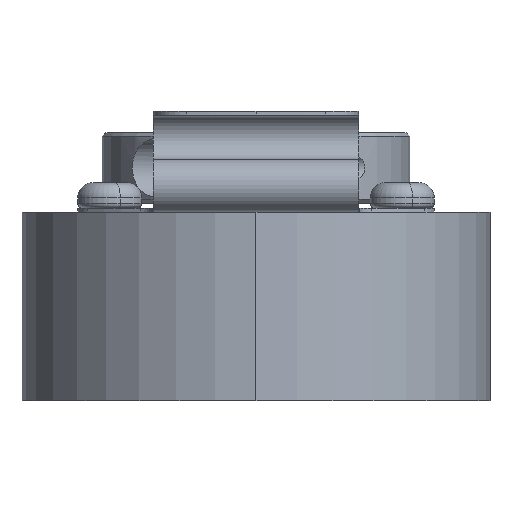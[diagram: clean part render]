
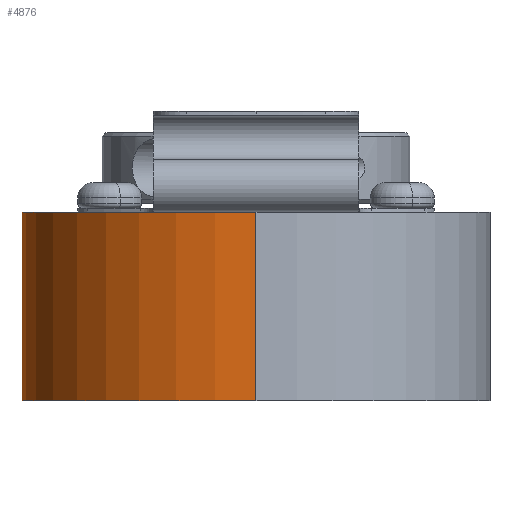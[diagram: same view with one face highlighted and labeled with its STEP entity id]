
A CAD part, left-side view. The second image highlights one B-rep face of the part: STEP entity #4876.
In plain terms, the highlighted cylindrical face has radius 18.25 mm (diameter 36.5 mm), a partial arc.
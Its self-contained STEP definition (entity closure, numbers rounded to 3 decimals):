
#1464 = CARTESIAN_POINT ( 'NONE',  ( -18.25, 0., 984. ) ) ;
#1907 = DIRECTION ( 'NONE',  ( 0., 0., 1. ) ) ;
#2314 = DIRECTION ( 'NONE',  ( -1., 0., 0. ) ) ;
#2493 = CARTESIAN_POINT ( 'NONE',  ( 18.25, 0., 984. ) ) ;
#3652 = CARTESIAN_POINT ( 'NONE',  ( -18.25, 0., 0. ) ) ;
#3789 = EDGE_CURVE ( 'NONE', #15605, #17959, #14091, .T. ) ;
#4470 = AXIS2_PLACEMENT_3D ( 'NONE', #12424, #22240, #5337 ) ;
#4492 = CARTESIAN_POINT ( 'NONE',  ( 0., 0., 984. ) ) ;
#4876 = ADVANCED_FACE ( 'NONE', ( #17770 ), #6258, .T. ) ;
#5105 = VERTEX_POINT ( 'NONE', #8306 ) ;
#5337 = DIRECTION ( 'NONE',  ( 1., 0., 0. ) ) ;
#5933 = VECTOR ( 'NONE', #16123, 1000. ) ;
#6258 = CYLINDRICAL_SURFACE ( 'NONE', #17074, 18.25 ) ;
#7907 = CIRCLE ( 'NONE', #4470, 18.25 ) ;
#8306 = CARTESIAN_POINT ( 'NONE',  ( 18.25, 0., -14.7 ) ) ;
#9204 = CARTESIAN_POINT ( 'NONE',  ( 18.25, 0., 0. ) ) ;
#11997 = ORIENTED_EDGE ( 'NONE', *, *, #13166, .T. ) ;
#12424 = CARTESIAN_POINT ( 'NONE',  ( 0., 0., -14.7 ) ) ;
#13166 = EDGE_CURVE ( 'NONE', #17959, #14736, #20075, .T. ) ;
#14091 = LINE ( 'NONE', #1464, #5933 ) ;
#14158 = CARTESIAN_POINT ( 'NONE',  ( 0., 0., 0. ) ) ;
#14736 = VERTEX_POINT ( 'NONE', #9204 ) ;
#15605 = VERTEX_POINT ( 'NONE', #17428 ) ;
#15856 = ORIENTED_EDGE ( 'NONE', *, *, #22134, .F. ) ;
#15926 = EDGE_LOOP ( 'NONE', ( #25490, #24590, #11997, #15856 ) ) ;
#16123 = DIRECTION ( 'NONE',  ( 0., 0., 1. ) ) ;
#17074 = AXIS2_PLACEMENT_3D ( 'NONE', #4492, #1907, #25738 ) ;
#17428 = CARTESIAN_POINT ( 'NONE',  ( -18.25, 0., -14.7 ) ) ;
#17770 = FACE_OUTER_BOUND ( 'NONE', #15926, .T. ) ;
#17959 = VERTEX_POINT ( 'NONE', #3652 ) ;
#19348 = EDGE_CURVE ( 'NONE', #5105, #15605, #7907, .T. ) ;
#20075 = CIRCLE ( 'NONE', #29862, 18.25 ) ;
#20107 = VECTOR ( 'NONE', #28343, 1000. ) ;
#20869 = DIRECTION ( 'NONE',  ( 0., 0., -1. ) ) ;
#22134 = EDGE_CURVE ( 'NONE', #5105, #14736, #23835, .T. ) ;
#22240 = DIRECTION ( 'NONE',  ( 0., 0., 1. ) ) ;
#23835 = LINE ( 'NONE', #2493, #20107 ) ;
#24590 = ORIENTED_EDGE ( 'NONE', *, *, #3789, .T. ) ;
#25490 = ORIENTED_EDGE ( 'NONE', *, *, #19348, .T. ) ;
#25738 = DIRECTION ( 'NONE',  ( 1., 0., 0. ) ) ;
#28343 = DIRECTION ( 'NONE',  ( 0., 0., 1. ) ) ;
#29862 = AXIS2_PLACEMENT_3D ( 'NONE', #14158, #20869, #2314 ) ;
